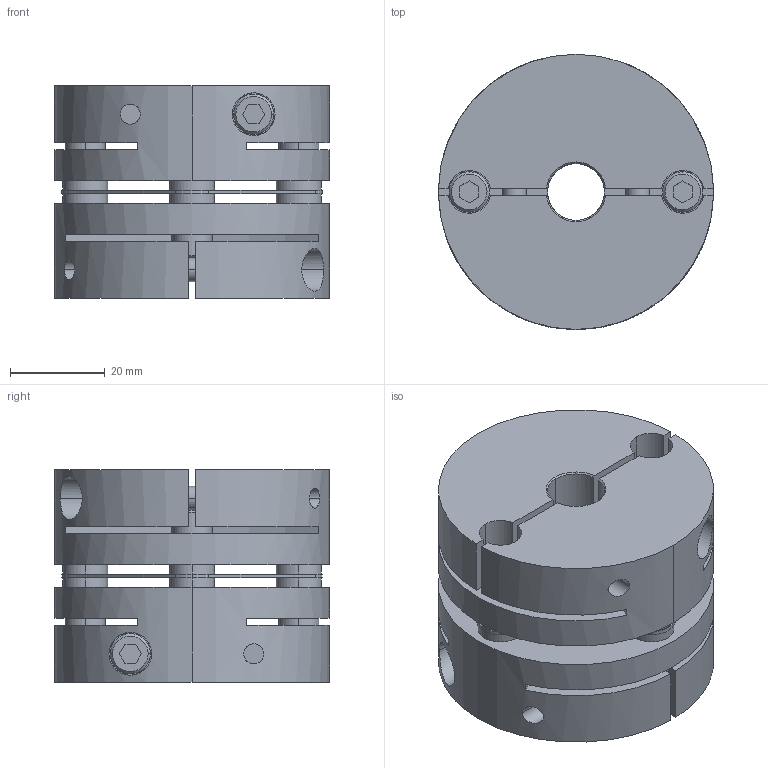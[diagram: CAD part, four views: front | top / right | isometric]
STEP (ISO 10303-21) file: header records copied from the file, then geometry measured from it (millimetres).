
FILE_DESCRIPTION((''),'2;1');
FILE_NAME('LAS-58C-12×12.stp','2011-08-09T15:15:21',(''),(''),'AutoCAD STEP 2000i','AutoCAD 2000i',', , ');
FILE_SCHEMA(('CONFIG_CONTROL_DESIGN'));
Length unit declared in the file: millimetre
Products named in the file (5): LAS-58C-12×12; 忣兜1; LA-5802-D12-1; LA-5802-D12; LAS58-ITA
Assembly tree (4 placements, depth 2):
  LAS-58C-12×12
    忣兜1
    LA-5802-D12-1
    LA-5802-D12
    LAS58-ITA
Bounding box: 58 x 58 x 44.8 mm (x, y, z)
Volume: 90727.4 mm3; surface area: 34038.2 mm2
Topology: 1 solids, 1 shells, 236 faces, 600 edges, 392 vertices
Faces by surface type: plane 112, cylinder 96, cone 28
Entity records: 7859 total; most frequent: CARTESIAN_POINT 1777, DIRECTION 1294, ORIENTED_EDGE 1200, EDGE_CURVE 600, AXIS2_PLACEMENT_3D 477, VERTEX_POINT 392, VECTOR 340, LINE 340
